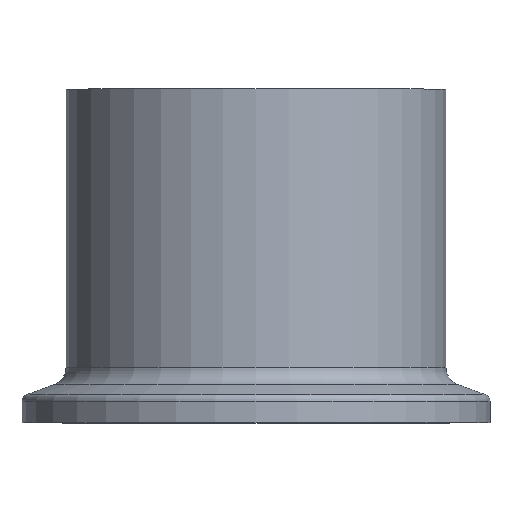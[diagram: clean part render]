
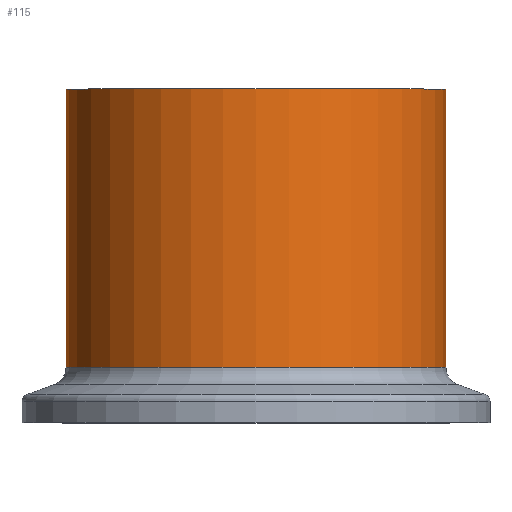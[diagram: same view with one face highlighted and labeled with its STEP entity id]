
A CAD part, top view. The second image highlights one B-rep face of the part: STEP entity #115.
In plain terms, the highlighted cylindrical face has radius 20.5 mm (diameter 41 mm), a full revolution.
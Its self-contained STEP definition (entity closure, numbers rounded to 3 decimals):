
#73=CARTESIAN_POINT('',(20.5,36.,0.0));
#74=VERTEX_POINT('',#73);
#75=CARTESIAN_POINT('',(0.0,36.,0.0));
#76=DIRECTION('',(0.0,-1.0,0.0));
#77=DIRECTION('',(1.0,0.0,0.0));
#78=AXIS2_PLACEMENT_3D('',#75,#76,#77);
#79=CIRCLE('',#78,20.5);
#80=EDGE_CURVE('',#74,#74,#79,.T.);
#96=CARTESIAN_POINT('',(0.0,20.99,0.0));
#97=DIRECTION('',(0.0,-1.0,0.0));
#98=DIRECTION('',(1.0,0.0,0.0));
#99=AXIS2_PLACEMENT_3D('',#96,#97,#98);
#100=CYLINDRICAL_SURFACE('',#99,20.5);
#101=CARTESIAN_POINT('',(20.5,5.979,0.0));
#102=VERTEX_POINT('',#101);
#103=CARTESIAN_POINT('',(0.0,5.979,0.0));
#104=DIRECTION('',(0.0,-1.0,0.0));
#105=DIRECTION('',(1.0,0.0,0.0));
#106=AXIS2_PLACEMENT_3D('',#103,#104,#105);
#107=CIRCLE('',#106,20.5);
#108=EDGE_CURVE('',#102,#102,#107,.T.);
#109=ORIENTED_EDGE('',*,*,#108,.F.);
#110=EDGE_LOOP('',(#109));
#111=FACE_OUTER_BOUND('',#110,.T.);
#112=ORIENTED_EDGE('',*,*,#80,.T.);
#113=EDGE_LOOP('',(#112));
#114=FACE_BOUND('',#113,.T.);
#115=ADVANCED_FACE('',(#111,#114),#100,.T.);
